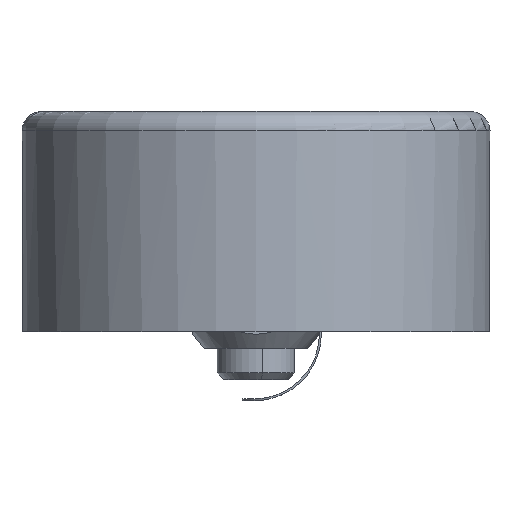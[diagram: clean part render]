
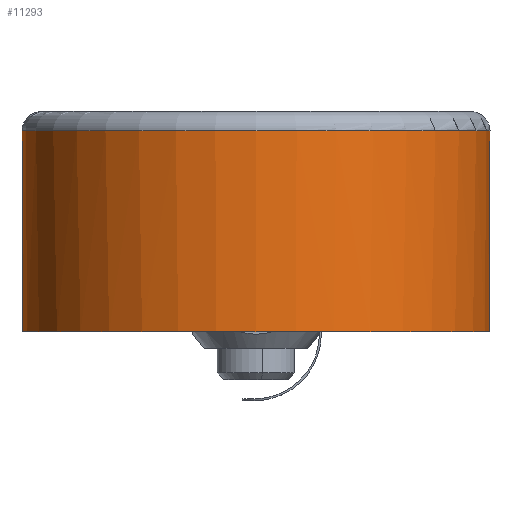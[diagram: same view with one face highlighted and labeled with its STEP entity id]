
A CAD part, left-side view. The second image highlights one B-rep face of the part: STEP entity #11293.
In plain terms, the highlighted cylindrical face has radius 24 mm (diameter 48 mm), a partial arc.
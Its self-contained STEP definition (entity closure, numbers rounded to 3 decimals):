
#7 = CIRCLE ( 'NONE', #6798, 24. ) ;
#140 = CARTESIAN_POINT ( 'NONE',  ( -210.115, -3.173, 15.18 ) ) ;
#431 = ORIENTED_EDGE ( 'NONE', *, *, #7296, .T. ) ;
#487 = VERTEX_POINT ( 'NONE', #6465 ) ;
#694 = VERTEX_POINT ( 'NONE', #3279 ) ;
#808 = CARTESIAN_POINT ( 'NONE',  ( -213.109, -26.986, 15.18 ) ) ;
#932 = VERTEX_POINT ( 'NONE', #11019 ) ;
#1085 = CYLINDRICAL_SURFACE ( 'NONE', #4591, 24. ) ;
#1202 = CARTESIAN_POINT ( 'NONE',  ( -205.14, -49.649, 18.4 ) ) ;
#1220 = ORIENTED_EDGE ( 'NONE', *, *, #10461, .F. ) ;
#1286 = CARTESIAN_POINT ( 'NONE',  ( -195.002, -43.652, 22.473 ) ) ;
#1513 = CARTESIAN_POINT ( 'NONE',  ( -210.115, -50.798, 5.08 ) ) ;
#1520 = CARTESIAN_POINT ( 'NONE',  ( -207.612, -3.618, 17.522 ) ) ;
#1557 = DIRECTION ( 'NONE',  ( 0., 0., 1. ) ) ;
#1644 = AXIS2_PLACEMENT_3D ( 'NONE', #3769, #4694, #10675 ) ;
#1707 = CARTESIAN_POINT ( 'NONE',  ( -204.159, -4.717, 18.668 ) ) ;
#1738 = DIRECTION ( 'NONE',  ( 0., 0., 1. ) ) ;
#2066 = FACE_OUTER_BOUND ( 'NONE', #4780, .T. ) ;
#2078 = CARTESIAN_POINT ( 'NONE',  ( -208.109, -50.482, 17.34 ) ) ;
#2206 = ORIENTED_EDGE ( 'NONE', *, *, #8843, .T. ) ;
#2460 = CARTESIAN_POINT ( 'NONE',  ( -192.292, -38.93, 25.68 ) ) ;
#2519 = CARTESIAN_POINT ( 'NONE',  ( -209.111, -3.316, 16.946 ) ) ;
#3279 = CARTESIAN_POINT ( 'NONE',  ( -210.115, -50.798, 16.549 ) ) ;
#3407 = CARTESIAN_POINT ( 'NONE',  ( -192.292, -15.041, 25.68 ) ) ;
#3724 = DIRECTION ( 'NONE',  ( 0., 0., -1. ) ) ;
#3769 = CARTESIAN_POINT ( 'NONE',  ( -213.109, -26.986, 5.08 ) ) ;
#3852 =( BOUNDED_CURVE ( )  B_SPLINE_CURVE ( 3, ( #6751, #10195, #5834, #8429 ),
 .UNSPECIFIED., .F., .T. ) 
 B_SPLINE_CURVE_WITH_KNOTS ( ( 4, 4 ),
 ( 3.524, 4.191 ),
 .UNSPECIFIED. ) 
 CURVE ( )  GEOMETRIC_REPRESENTATION_ITEM ( )  RATIONAL_B_SPLINE_CURVE ( ( 1., 0.963, 0.963, 1. ) ) 
 REPRESENTATION_ITEM ( '' )  );
#3875 = ORIENTED_EDGE ( 'NONE', *, *, #7579, .T. ) ;
#3894 = CARTESIAN_POINT ( 'NONE',  ( -204.159, -49.255, 18.668 ) ) ;
#4303 = CARTESIAN_POINT ( 'NONE',  ( -209.613, -3.236, 16.747 ) ) ;
#4456 = LINE ( 'NONE', #6217, #7345 ) ;
#4506 = CARTESIAN_POINT ( 'NONE',  ( -206.123, -49.969, 18.066 ) ) ;
#4591 = AXIS2_PLACEMENT_3D ( 'NONE', #808, #1557, #7640 ) ;
#4615 = CARTESIAN_POINT ( 'NONE',  ( -204.159, -49.255, 18.668 ) ) ;
#4642 = CARTESIAN_POINT ( 'NONE',  ( -199.108, -47.225, 20.046 ) ) ;
#4694 = DIRECTION ( 'NONE',  ( 0., 0., -1. ) ) ;
#4780 = EDGE_LOOP ( 'NONE', ( #9314, #1220, #431, #5486, #10180, #2206, #6324, #3875 ) ) ;
#4813 = CARTESIAN_POINT ( 'NONE',  ( -192.292, -38.93, 25.68 ) ) ;
#5029 =( BOUNDED_CURVE ( )  B_SPLINE_CURVE ( 3, ( #4813, #1286, #4642, #3894 ),
 .UNSPECIFIED., .F., .T. ) 
 B_SPLINE_CURVE_WITH_KNOTS ( ( 4, 4 ),
 ( 2.092, 2.759 ),
 .UNSPECIFIED. ) 
 CURVE ( )  GEOMETRIC_REPRESENTATION_ITEM ( )  RATIONAL_B_SPLINE_CURVE ( ( 1., 0.963, 0.963, 1. ) ) 
 REPRESENTATION_ITEM ( '' )  );
#5067 = DIRECTION ( 'NONE',  ( 1., 0., 0. ) ) ;
#5104 = CARTESIAN_POINT ( 'NONE',  ( -210.115, -3.173, 5.08 ) ) ;
#5324 = VERTEX_POINT ( 'NONE', #5104 ) ;
#5486 = ORIENTED_EDGE ( 'NONE', *, *, #9334, .T. ) ;
#5571 = VERTEX_POINT ( 'NONE', #2460 ) ;
#5834 = CARTESIAN_POINT ( 'NONE',  ( -195.002, -10.32, 22.473 ) ) ;
#5926 = CARTESIAN_POINT ( 'NONE',  ( -213.109, -26.986, 25.68 ) ) ;
#6015 = CARTESIAN_POINT ( 'NONE',  ( -210.115, -3.173, 16.549 ) ) ;
#6074 = B_SPLINE_CURVE_WITH_KNOTS ( 'NONE', 3,
 ( #1707, #6862, #9324, #1520, #10367, #2519, #4303, #6015 ),
 .UNSPECIFIED., .F., .F.,
 ( 4, 2, 2, 4 ),
 ( 0., 0.003, 0.005, 0.007 ),
 .UNSPECIFIED. ) ;
#6217 = CARTESIAN_POINT ( 'NONE',  ( -210.115, -50.798, 15.18 ) ) ;
#6324 = ORIENTED_EDGE ( 'NONE', *, *, #10243, .F. ) ;
#6465 = CARTESIAN_POINT ( 'NONE',  ( -204.159, -4.717, 18.668 ) ) ;
#6496 = CARTESIAN_POINT ( 'NONE',  ( -210.115, -50.798, 16.549 ) ) ;
#6505 = VERTEX_POINT ( 'NONE', #1513 ) ;
#6751 = CARTESIAN_POINT ( 'NONE',  ( -204.159, -4.717, 18.668 ) ) ;
#6798 = AXIS2_PLACEMENT_3D ( 'NONE', #5926, #11146, #5067 ) ;
#6862 = CARTESIAN_POINT ( 'NONE',  ( -205.141, -4.323, 18.4 ) ) ;
#7058 = LINE ( 'NONE', #140, #11363 ) ;
#7296 = EDGE_CURVE ( 'NONE', #6505, #694, #4456, .T. ) ;
#7328 = CIRCLE ( 'NONE', #1644, 24. ) ;
#7345 = VECTOR ( 'NONE', #1738, 1000. ) ;
#7579 = EDGE_CURVE ( 'NONE', #487, #932, #6074, .T. ) ;
#7640 = DIRECTION ( 'NONE',  ( 1., 0., 0. ) ) ;
#8134 = EDGE_CURVE ( 'NONE', #932, #5324, #7058, .T. ) ;
#8429 = CARTESIAN_POINT ( 'NONE',  ( -192.292, -15.041, 25.68 ) ) ;
#8843 = EDGE_CURVE ( 'NONE', #5571, #10845, #7, .T. ) ;
#9314 = ORIENTED_EDGE ( 'NONE', *, *, #8134, .T. ) ;
#9324 = CARTESIAN_POINT ( 'NONE',  ( -206.123, -4.002, 18.066 ) ) ;
#9334 = EDGE_CURVE ( 'NONE', #694, #10070, #9884, .T. ) ;
#9826 = CARTESIAN_POINT ( 'NONE',  ( -209.11, -50.672, 16.946 ) ) ;
#9884 = B_SPLINE_CURVE_WITH_KNOTS ( 'NONE', 3,
 ( #6496, #9826, #2078, #4506, #1202, #4615 ),
 .UNSPECIFIED., .F., .F.,
 ( 4, 2, 4 ),
 ( 0., 0.003, 0.006 ),
 .UNSPECIFIED. ) ;
#10070 = VERTEX_POINT ( 'NONE', #10308 ) ;
#10180 = ORIENTED_EDGE ( 'NONE', *, *, #10448, .F. ) ;
#10195 = CARTESIAN_POINT ( 'NONE',  ( -199.108, -6.747, 20.046 ) ) ;
#10243 = EDGE_CURVE ( 'NONE', #487, #10845, #3852, .T. ) ;
#10308 = CARTESIAN_POINT ( 'NONE',  ( -204.159, -49.255, 18.668 ) ) ;
#10367 = CARTESIAN_POINT ( 'NONE',  ( -208.111, -3.506, 17.332 ) ) ;
#10448 = EDGE_CURVE ( 'NONE', #5571, #10070, #5029, .T. ) ;
#10461 = EDGE_CURVE ( 'NONE', #6505, #5324, #7328, .T. ) ;
#10675 = DIRECTION ( 'NONE',  ( -1., 0., 0. ) ) ;
#10845 = VERTEX_POINT ( 'NONE', #3407 ) ;
#11019 = CARTESIAN_POINT ( 'NONE',  ( -210.115, -3.173, 16.549 ) ) ;
#11146 = DIRECTION ( 'NONE',  ( 0., 0., -1. ) ) ;
#11293 = ADVANCED_FACE ( 'NONE', ( #2066 ), #1085, .T. ) ;
#11363 = VECTOR ( 'NONE', #3724, 1000. ) ;
